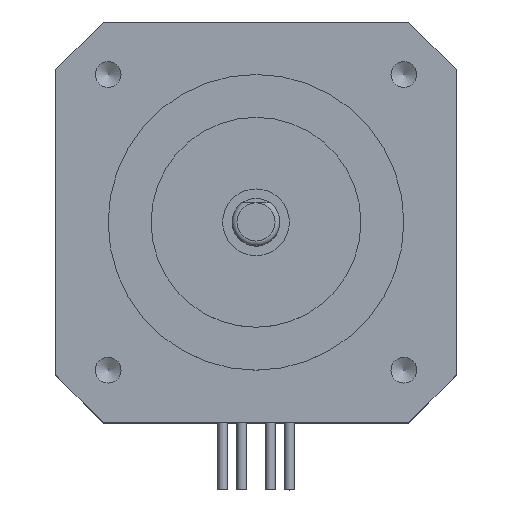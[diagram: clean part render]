
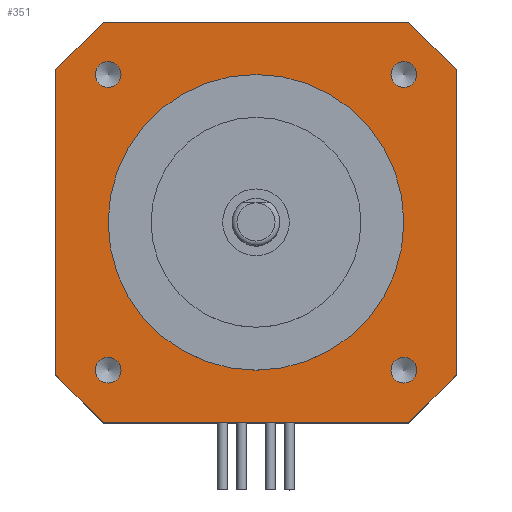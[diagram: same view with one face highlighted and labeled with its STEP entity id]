
A CAD part, top view. The second image highlights one B-rep face of the part: STEP entity #351.
In plain terms, the highlighted planar face has unit normal (0, 0, 1).
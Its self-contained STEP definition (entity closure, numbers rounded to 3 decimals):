
#114=PLANE('',#2537);
#351=ADVANCED_FACE('',(#1047,#1048,#1049,#1050,#1051,#1052),#114,.F.);
#555=LINE('',#3490,#817);
#556=LINE('',#3493,#818);
#557=LINE('',#3495,#819);
#558=LINE('',#3497,#820);
#559=LINE('',#3499,#821);
#560=LINE('',#3501,#822);
#561=LINE('',#3503,#823);
#562=LINE('',#3505,#824);
#817=VECTOR('',#2797,1.);
#818=VECTOR('',#2798,1.);
#819=VECTOR('',#2799,1.);
#820=VECTOR('',#2800,1.);
#821=VECTOR('',#2801,1.);
#822=VECTOR('',#2802,1.);
#823=VECTOR('',#2803,1.);
#824=VECTOR('',#2804,1.);
#1047=FACE_BOUND('',#1134,.T.);
#1048=FACE_BOUND('',#1135,.T.);
#1049=FACE_BOUND('',#1136,.T.);
#1050=FACE_BOUND('',#1137,.T.);
#1051=FACE_BOUND('',#1138,.T.);
#1052=FACE_BOUND('',#1139,.T.);
#1134=EDGE_LOOP('',(#1368));
#1135=EDGE_LOOP('',(#1369));
#1136=EDGE_LOOP('',(#1370));
#1137=EDGE_LOOP('',(#1371));
#1138=EDGE_LOOP('',(#1372,#1373,#1374,#1375,#1376,#1377,#1378,#1379));
#1139=EDGE_LOOP('',(#1380));
#1368=ORIENTED_EDGE('',*,*,#2215,.T.);
#1369=ORIENTED_EDGE('',*,*,#2216,.T.);
#1370=ORIENTED_EDGE('',*,*,#2217,.T.);
#1371=ORIENTED_EDGE('',*,*,#2218,.T.);
#1372=ORIENTED_EDGE('',*,*,#2219,.F.);
#1373=ORIENTED_EDGE('',*,*,#2220,.T.);
#1374=ORIENTED_EDGE('',*,*,#2221,.F.);
#1375=ORIENTED_EDGE('',*,*,#2222,.T.);
#1376=ORIENTED_EDGE('',*,*,#2223,.F.);
#1377=ORIENTED_EDGE('',*,*,#2224,.T.);
#1378=ORIENTED_EDGE('',*,*,#2225,.F.);
#1379=ORIENTED_EDGE('',*,*,#2226,.T.);
#1380=ORIENTED_EDGE('',*,*,#2227,.T.);
#1989=VERTEX_POINT('',#3483);
#1990=VERTEX_POINT('',#3485);
#1991=VERTEX_POINT('',#3487);
#1992=VERTEX_POINT('',#3489);
#1993=VERTEX_POINT('',#3491);
#1994=VERTEX_POINT('',#3492);
#1995=VERTEX_POINT('',#3494);
#1996=VERTEX_POINT('',#3496);
#1997=VERTEX_POINT('',#3498);
#1998=VERTEX_POINT('',#3500);
#1999=VERTEX_POINT('',#3502);
#2000=VERTEX_POINT('',#3504);
#2001=VERTEX_POINT('',#3507);
#2215=EDGE_CURVE('',#1989,#1989,#2479,.T.);
#2216=EDGE_CURVE('',#1990,#1990,#2480,.T.);
#2217=EDGE_CURVE('',#1991,#1991,#2481,.T.);
#2218=EDGE_CURVE('',#1992,#1992,#2482,.T.);
#2219=EDGE_CURVE('',#1993,#1994,#555,.T.);
#2220=EDGE_CURVE('',#1993,#1995,#556,.T.);
#2221=EDGE_CURVE('',#1996,#1995,#557,.T.);
#2222=EDGE_CURVE('',#1996,#1997,#558,.T.);
#2223=EDGE_CURVE('',#1998,#1997,#559,.T.);
#2224=EDGE_CURVE('',#1998,#1999,#560,.T.);
#2225=EDGE_CURVE('',#2000,#1999,#561,.T.);
#2226=EDGE_CURVE('',#2000,#1994,#562,.T.);
#2227=EDGE_CURVE('',#2001,#2001,#2483,.T.);
#2479=CIRCLE('',#2532,1.35);
#2480=CIRCLE('',#2533,1.35);
#2481=CIRCLE('',#2534,1.35);
#2482=CIRCLE('',#2535,1.35);
#2483=CIRCLE('',#2536,15.5);
#2532=AXIS2_PLACEMENT_3D('',#3482,#2789,#2790);
#2533=AXIS2_PLACEMENT_3D('',#3484,#2791,#2792);
#2534=AXIS2_PLACEMENT_3D('',#3486,#2793,#2794);
#2535=AXIS2_PLACEMENT_3D('',#3488,#2795,#2796);
#2536=AXIS2_PLACEMENT_3D('',#3506,#2805,#2806);
#2537=AXIS2_PLACEMENT_3D('',#3508,#2807,#2808);
#2789=DIRECTION('',(0.,0.,-1.));
#2790=DIRECTION('',(-1.,0.,0.));
#2791=DIRECTION('',(0.,0.,-1.));
#2792=DIRECTION('',(-1.,0.,0.));
#2793=DIRECTION('',(0.,0.,-1.));
#2794=DIRECTION('',(-1.,0.,0.));
#2795=DIRECTION('',(0.,0.,-1.));
#2796=DIRECTION('',(-1.,0.,0.));
#2797=DIRECTION('',(1.,0.,0.));
#2798=DIRECTION('',(-0.707,-0.707,0.));
#2799=DIRECTION('',(0.,1.,0.));
#2800=DIRECTION('',(0.707,-0.707,0.));
#2801=DIRECTION('',(-1.,0.,0.));
#2802=DIRECTION('',(0.707,0.707,0.));
#2803=DIRECTION('',(0.,-1.,0.));
#2804=DIRECTION('',(-0.707,0.707,0.));
#2805=DIRECTION('',(0.,0.,-1.));
#2806=DIRECTION('',(1.,0.,0.));
#2807=DIRECTION('',(0.,0.,-1.));
#2808=DIRECTION('',(-1.,0.,0.));
#3482=CARTESIAN_POINT('',(15.5,-15.5,0.));
#3483=CARTESIAN_POINT('',(14.15,-15.5,0.));
#3484=CARTESIAN_POINT('',(15.5,15.5,0.));
#3485=CARTESIAN_POINT('',(14.15,15.5,0.));
#3486=CARTESIAN_POINT('',(-15.5,15.5,0.));
#3487=CARTESIAN_POINT('',(-16.85,15.5,0.));
#3488=CARTESIAN_POINT('',(-15.5,-15.5,0.));
#3489=CARTESIAN_POINT('',(-16.85,-15.5,0.));
#3490=CARTESIAN_POINT('',(-21.,21.,0.));
#3491=CARTESIAN_POINT('',(-16.,21.,0.));
#3492=CARTESIAN_POINT('',(16.,21.,0.));
#3493=CARTESIAN_POINT('',(-16.,21.,0.));
#3494=CARTESIAN_POINT('',(-21.,16.,0.));
#3495=CARTESIAN_POINT('',(-21.,-21.,0.));
#3496=CARTESIAN_POINT('',(-21.,-16.,0.));
#3497=CARTESIAN_POINT('',(-21.,-16.,0.));
#3498=CARTESIAN_POINT('',(-16.,-21.,0.));
#3499=CARTESIAN_POINT('',(21.,-21.,0.));
#3500=CARTESIAN_POINT('',(16.,-21.,0.));
#3501=CARTESIAN_POINT('',(16.,-21.,0.));
#3502=CARTESIAN_POINT('',(21.,-16.,0.));
#3503=CARTESIAN_POINT('',(21.,21.,0.));
#3504=CARTESIAN_POINT('',(21.,16.,0.));
#3505=CARTESIAN_POINT('',(21.,16.,0.));
#3506=CARTESIAN_POINT('',(0.,0.,0.));
#3507=CARTESIAN_POINT('',(15.5,0.,0.));
#3508=CARTESIAN_POINT('',(-21.,-21.,0.));
